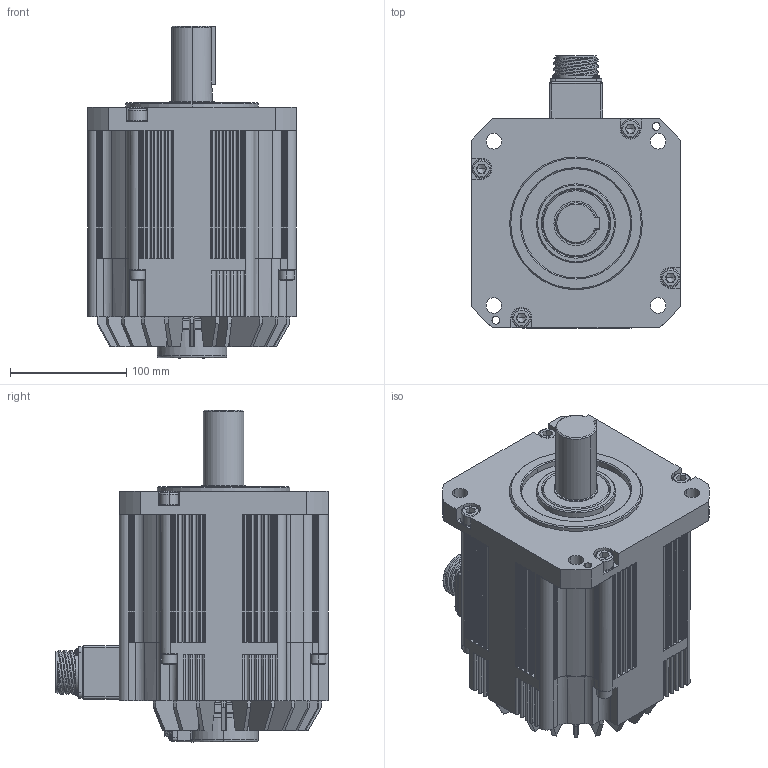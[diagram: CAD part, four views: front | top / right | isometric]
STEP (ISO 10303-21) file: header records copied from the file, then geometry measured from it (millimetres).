
FILE_DESCRIPTION (( 'STEP AP203' ), '1' );
FILE_NAME ('TSM3614N2373E720.STEP', '2018-07-04T09:08:28', ( '' ), ( '' ), 'SwSTEP 2.0', 'SolidWorks 2017', '' );
FILE_SCHEMA (( 'CONFIG_CONTROL_DESIGN' ));
Length unit declared in the file: millimetre
Products named in the file (1): TSM3614N2373E720
Bounding box: 180 x 234.5 x 286 mm (x, y, z)
Volume: 5273772.5 mm3; surface area: 322343.4 mm2
Topology: 1 solids, 20 shells, 2441 faces, 6583 edges, 4250 vertices
Faces by surface type: plane 1314, cylinder 636, bspline 356, cone 127, torus 8
Entity records: 101612 total; most frequent: CARTESIAN_POINT 44041, ORIENTED_EDGE 13066, DIRECTION 10138, EDGE_CURVE 6533, VERTEX_POINT 4250, LINE 4028, VECTOR 4028, AXIS2_PLACEMENT_3D 3055
